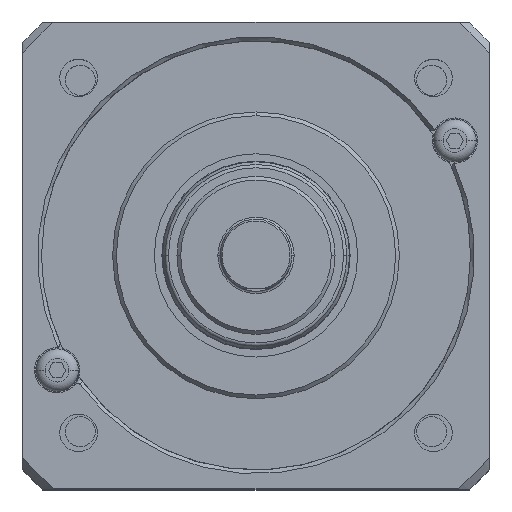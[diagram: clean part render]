
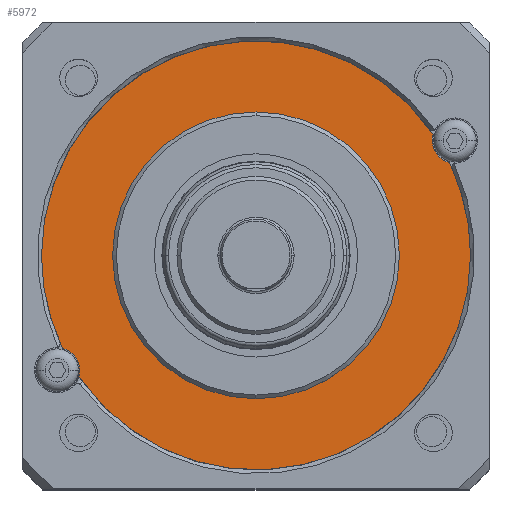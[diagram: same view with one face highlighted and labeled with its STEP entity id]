
A CAD part, top view. The second image highlights one B-rep face of the part: STEP entity #5972.
In plain terms, the highlighted planar face has unit normal (0, 0, 1).
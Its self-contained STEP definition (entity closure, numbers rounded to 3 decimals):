
#5709=CARTESIAN_POINT('',(0.,0.,-0.2));
#5710=DIRECTION('',(0.,0.,-1.));
#5711=DIRECTION('',(0.,-1.,0.));
#5712=AXIS2_PLACEMENT_3D('',#5709,#5710,#5711);
#5714=CARTESIAN_POINT('',(0.,0.,-0.2));
#5715=DIRECTION('',(0.,0.,-1.));
#5716=DIRECTION('',(0.,1.,0.));
#5717=AXIS2_PLACEMENT_3D('',#5714,#5715,#5716);
#5719=CARTESIAN_POINT('',(-26.414,-15.25,-0.2));
#5720=DIRECTION('',(0.,0.,-1.));
#5721=DIRECTION('',(0.241,0.971,0.));
#5722=AXIS2_PLACEMENT_3D('',#5719,#5720,#5721);
#5738=CARTESIAN_POINT('',(0.,0.,-0.2));
#5739=DIRECTION('',(0.,0.,1.));
#5740=DIRECTION('',(-0.826,-0.564,0.));
#5741=AXIS2_PLACEMENT_3D('',#5738,#5739,#5740);
#5752=CARTESIAN_POINT('',(0.,0.,-0.2));
#5753=DIRECTION('',(0.,0.,1.));
#5754=DIRECTION('',(-1.,0.,0.));
#5755=AXIS2_PLACEMENT_3D('',#5752,#5753,#5754);
#5770=CARTESIAN_POINT('',(0.,0.,-0.2));
#5771=DIRECTION('',(0.,0.,1.));
#5772=DIRECTION('',(0.826,0.564,0.));
#5773=AXIS2_PLACEMENT_3D('',#5770,#5771,#5772);
#5784=CARTESIAN_POINT('',(0.,0.,-0.2));
#5785=DIRECTION('',(0.,0.,1.));
#5786=DIRECTION('',(1.,0.,0.));
#5787=AXIS2_PLACEMENT_3D('',#5784,#5785,#5786);
#5798=CARTESIAN_POINT('',(26.414,15.25,-0.2));
#5799=DIRECTION('',(0.,0.,-1.));
#5800=DIRECTION('',(-0.241,-0.971,0.));
#5801=AXIS2_PLACEMENT_3D('',#5798,#5799,#5800);
#5811=CARTESIAN_POINT('',(0.,-19.05,-0.2));
#5812=CARTESIAN_POINT('',(0.,19.05,-0.2));
#5813=VERTEX_POINT('',#5811);
#5814=VERTEX_POINT('',#5812);
#5819=CARTESIAN_POINT('',(28.5,0.,-0.2));
#5820=VERTEX_POINT('',#5819);
#5821=CARTESIAN_POINT('',(-28.5,0.,-0.2));
#5822=VERTEX_POINT('',#5821);
#5835=CARTESIAN_POINT('',(23.531,16.08,-0.2));
#5836=VERTEX_POINT('',#5835);
#5837=CARTESIAN_POINT('',(25.691,12.338,-0.2));
#5838=VERTEX_POINT('',#5837);
#5843=CARTESIAN_POINT('',(-25.691,-12.338,-0.2));
#5844=VERTEX_POINT('',#5843);
#5845=CARTESIAN_POINT('',(-23.531,-16.08,-0.2));
#5846=VERTEX_POINT('',#5845);
#5949=CARTESIAN_POINT('',(0.,0.,-0.2));
#5950=DIRECTION('',(0.,0.,1.));
#5951=DIRECTION('',(0.,-1.,0.));
#5952=AXIS2_PLACEMENT_3D('',#5949,#5950,#5951);
#5953=PLANE('',#5952);
#5955=ORIENTED_EDGE('',*,*,#5954,.F.);
#5957=ORIENTED_EDGE('',*,*,#5956,.F.);
#5959=ORIENTED_EDGE('',*,*,#5958,.F.);
#5961=ORIENTED_EDGE('',*,*,#5960,.F.);
#5963=ORIENTED_EDGE('',*,*,#5962,.F.);
#5965=ORIENTED_EDGE('',*,*,#5964,.F.);
#5966=EDGE_LOOP('',(#5955,#5957,#5959,#5961,#5963,#5965));
#5967=FACE_OUTER_BOUND('',#5966,.F.);
#5968=ORIENTED_EDGE('',*,*,#5943,.F.);
#5969=ORIENTED_EDGE('',*,*,#5929,.F.);
#5970=EDGE_LOOP('',(#5968,#5969));
#5971=FACE_BOUND('',#5970,.F.);
#5972=ADVANCED_FACE('',(#5967,#5971),#5953,.T.);
#5713=CIRCLE('',#5712,19.05);
#5718=CIRCLE('',#5717,19.05);
#5723=CIRCLE('',#5722,3.);
#5742=CIRCLE('',#5741,28.5);
#5756=CIRCLE('',#5755,28.5);
#5774=CIRCLE('',#5773,28.5);
#5788=CIRCLE('',#5787,28.5);
#5802=CIRCLE('',#5801,3.);
#5929=EDGE_CURVE('',#5814,#5813,#5718,.T.);
#5943=EDGE_CURVE('',#5813,#5814,#5713,.T.);
#5954=EDGE_CURVE('',#5844,#5846,#5723,.T.);
#5956=EDGE_CURVE('',#5822,#5844,#5756,.T.);
#5958=EDGE_CURVE('',#5836,#5822,#5774,.T.);
#5960=EDGE_CURVE('',#5838,#5836,#5802,.T.);
#5962=EDGE_CURVE('',#5820,#5838,#5788,.T.);
#5964=EDGE_CURVE('',#5846,#5820,#5742,.T.);
